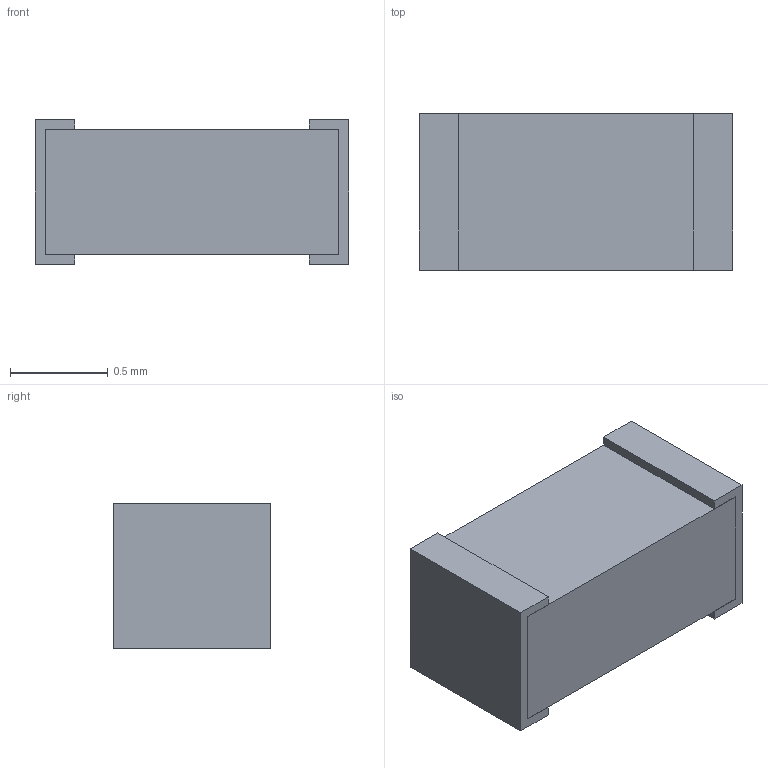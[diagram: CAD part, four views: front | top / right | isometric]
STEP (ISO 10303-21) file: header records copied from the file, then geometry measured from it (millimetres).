
FILE_DESCRIPTION(('STEP AP203'), '1');
FILE_NAME('0603-1', '', ('UNSPECIFIED'), ('UNSPECIFIED'), 'ASCON STEP Converter 1.6', 'ASCON Math Kernel', '');
FILE_SCHEMA(('CONFIG_CONTROL_DESIGN'));
Length unit declared in the file: millimetre
Bounding box: 1.6 x 0.8 x 0.74 mm (x, y, z)
Volume: 0.9 mm3; surface area: 9 mm2
Topology: 3 solids, 3 shells, 26 faces, 60 edges, 40 vertices
Faces by surface type: plane 26
Entity records: 988 total; most frequent: CARTESIAN_POINT 127, ORIENTED_EDGE 120, DIRECTION 114, EDGE_CURVE 60, LINE 60, VECTOR 60, VERTEX_POINT 40, COLOUR_RGB 29
